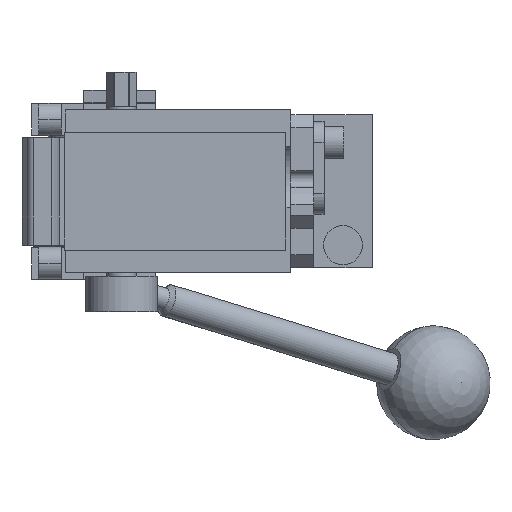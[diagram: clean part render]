
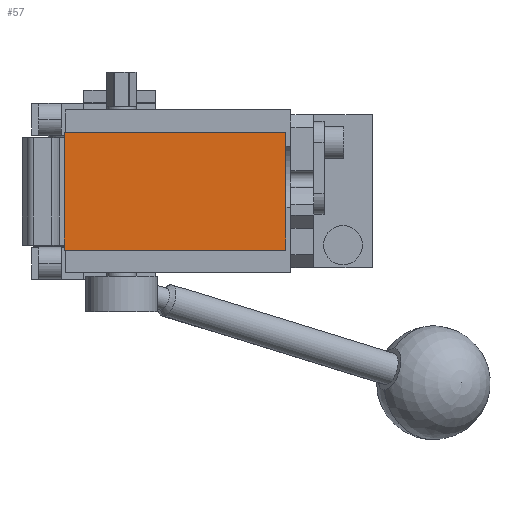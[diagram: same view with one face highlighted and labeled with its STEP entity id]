
A CAD part, front view. The second image highlights one B-rep face of the part: STEP entity #57.
In plain terms, the highlighted planar face has unit normal (0, -1, 0).
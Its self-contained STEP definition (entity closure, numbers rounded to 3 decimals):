
#57 = ADVANCED_FACE ( 'NONE', ( #14187 ), #3297, .T. ) ;
#121 = CARTESIAN_POINT ( 'NONE',  ( 62., -233., 18. ) ) ;
#521 = CARTESIAN_POINT ( 'NONE',  ( -6., -233., 18. ) ) ;
#671 = ORIENTED_EDGE ( 'NONE', *, *, #734, .T. ) ;
#734 = EDGE_CURVE ( 'NONE', #14386, #1325, #6435, .T. ) ;
#1018 = DIRECTION ( 'NONE',  ( -1., 0., 0. ) ) ;
#1325 = VERTEX_POINT ( 'NONE', #9764 ) ;
#1721 = EDGE_CURVE ( 'NONE', #3331, #13105, #6086, .T. ) ;
#2158 = CARTESIAN_POINT ( 'NONE',  ( 62., -233., 18. ) ) ;
#2548 = ORIENTED_EDGE ( 'NONE', *, *, #7329, .T. ) ;
#2661 = VECTOR ( 'NONE', #1018, 1000. ) ;
#3052 = DIRECTION ( 'NONE',  ( 0., -1., 0. ) ) ;
#3297 = PLANE ( 'NONE',  #13611 ) ;
#3331 = VERTEX_POINT ( 'NONE', #121 ) ;
#5136 = VECTOR ( 'NONE', #6990, 1000. ) ;
#5763 = ORIENTED_EDGE ( 'NONE', *, *, #1721, .T. ) ;
#6086 = LINE ( 'NONE', #9667, #2661 ) ;
#6102 = CARTESIAN_POINT ( 'NONE',  ( -6., -233., 18. ) ) ;
#6286 = CARTESIAN_POINT ( 'NONE',  ( -6., -233., -18. ) ) ;
#6435 = LINE ( 'NONE', #6286, #10569 ) ;
#6709 = DIRECTION ( 'NONE',  ( 0., 0., -1. ) ) ;
#6990 = DIRECTION ( 'NONE',  ( 0., 0., 1. ) ) ;
#7119 = CARTESIAN_POINT ( 'NONE',  ( -6., -233., -18. ) ) ;
#7315 = ORIENTED_EDGE ( 'NONE', *, *, #9070, .T. ) ;
#7329 = EDGE_CURVE ( 'NONE', #13105, #14386, #14972, .T. ) ;
#8579 = EDGE_LOOP ( 'NONE', ( #2548, #671, #7315, #5763 ) ) ;
#8854 = DIRECTION ( 'NONE',  ( 0., 0., -1. ) ) ;
#9070 = EDGE_CURVE ( 'NONE', #1325, #3331, #13024, .T. ) ;
#9495 = CARTESIAN_POINT ( 'NONE',  ( 0., -233., 0. ) ) ;
#9667 = CARTESIAN_POINT ( 'NONE',  ( -6., -233., 18. ) ) ;
#9764 = CARTESIAN_POINT ( 'NONE',  ( 62., -233., -18. ) ) ;
#10569 = VECTOR ( 'NONE', #14712, 1000. ) ;
#13024 = LINE ( 'NONE', #2158, #5136 ) ;
#13105 = VERTEX_POINT ( 'NONE', #6102 ) ;
#13500 = VECTOR ( 'NONE', #8854, 1000. ) ;
#13611 = AXIS2_PLACEMENT_3D ( 'NONE', #9495, #3052, #6709 ) ;
#14187 = FACE_OUTER_BOUND ( 'NONE', #8579, .T. ) ;
#14386 = VERTEX_POINT ( 'NONE', #7119 ) ;
#14712 = DIRECTION ( 'NONE',  ( 1., 0., 0. ) ) ;
#14972 = LINE ( 'NONE', #521, #13500 ) ;
